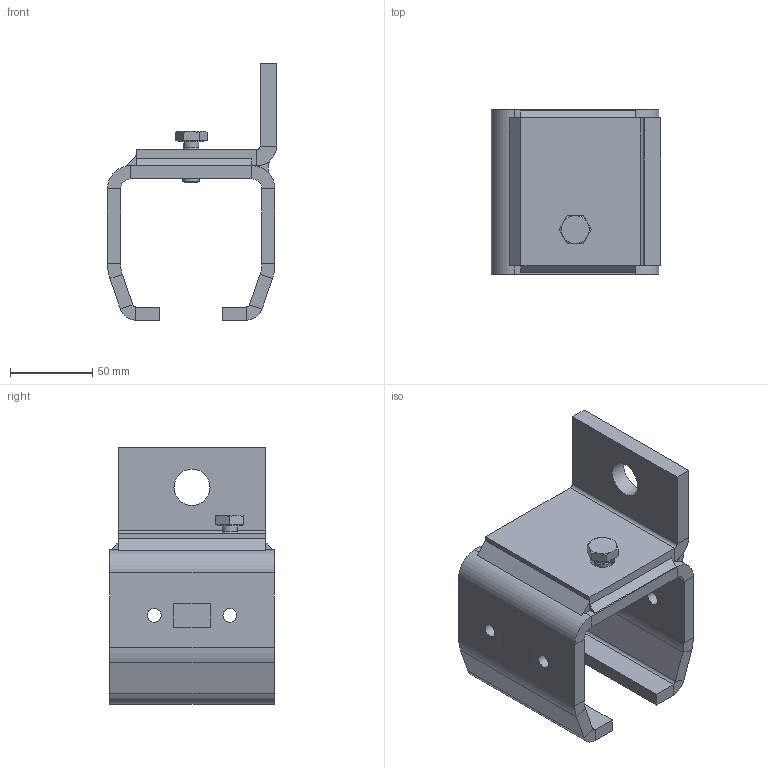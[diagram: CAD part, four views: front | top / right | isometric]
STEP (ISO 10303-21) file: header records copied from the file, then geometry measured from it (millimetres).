
FILE_DESCRIPTION(/* description */ ('Wandbefestigung Nr.4'),/* implementation_level */ '2;1');
FILE_NAME(/* name */ 'Q:\sge-ma\Produktmanagement-STB\STB\Workspace\stp\010335680.stp',/* time_stamp */ '2015-07-09T13:47:51+02:00',/* author */ ('avschreier'),/* organization */ (''),/* preprocessor_version */ 'ST-DEVELOPER v15.6',/* originating_system */ 'Autodesk Inventor 2015',/* authorisation */ '');
FILE_SCHEMA (('CONFIG_CONTROL_DESIGN'));
Length unit declared in the file: millimetre
Products named in the file (5): 010335680_Schweißnähte; 337000133; 337000129; DIN_EN_ISO_4017-M10x25_en; 010335680
Bounding box: 103 x 100 x 156 mm (x, y, z)
Volume: 357671.3 mm3; surface area: 103311.1 mm2
Topology: 7 solids, 7 shells, 124 faces, 257 edges, 146 vertices
Faces by surface type: plane 88, cylinder 28, cone 8
Full cylindrical faces by diameter (mm): 8.376 x1, 8.4 x5, 9.188 x1, 10 x1, 15 x1, 15.4 x1, 22 x1
Entity records: 3247 total; most frequent: DIRECTION 560, CARTESIAN_POINT 545, ORIENTED_EDGE 490, EDGE_CURVE 243, AXIS2_PLACEMENT_3D 196, LINE 168, VECTOR 168, EDGE_LOOP 156
